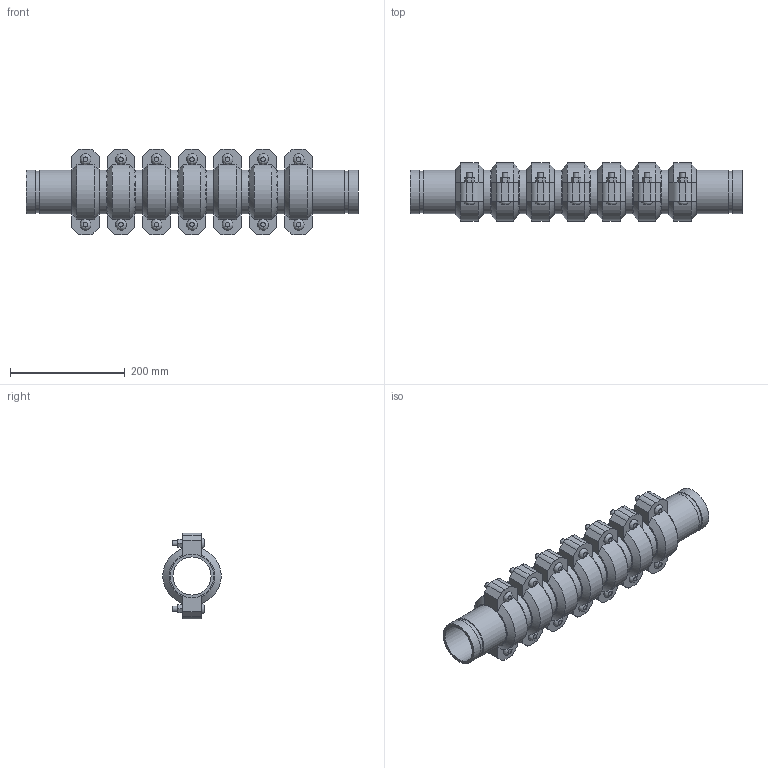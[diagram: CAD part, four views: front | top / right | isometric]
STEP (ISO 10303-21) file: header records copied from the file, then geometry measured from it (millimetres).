
FILE_DESCRIPTION(/* description */ ('VIC EXPANSION JOINT 7 COUPLINGS EXPANDED STYLE 155 (OGS)','CAx-IF Rec.Pracs.---Representation and Presentation of Product Manufacturing Information (PMI)---4.0---2014-10-13'),/* implementation_level */ '2;1');
FILE_NAME(/* name */ 'C:\Users\kkamble\AppData\Roaming\Autodesk\ApplicationPlugins\Victaulic.Temp\A179\Victaulic_IPS_Expansion Joint_Expanded_7 Couplings_Style 155 (OGS)_02.5 (76.1) (65).stp',/* time_stamp */ '2021-06-27T00:06:46+02:00',/* author */ ('kkamble'),/* organization */ ('Victaulic'),/* preprocessor_version */ 'ST-DEVELOPER v17.2',/* originating_system */ 'Autodesk Inventor 2019',/* authorisation */ '');
FILE_SCHEMA (('AP242_MANAGED_MODEL_BASED_3D_ENGINEERING_MIM_LF { 1 0 10303 442 1 1 4 }'));
Length unit declared in the file: inch
Products named in the file (4): 155-02.5 (76.1); Nipple-02.5 (76.1); Nipple-02.5 (76.1)_1; 075-02.5 (76.1)
Assembly tree (15 placements, depth 2):
  155-02.5 (76.1)
    Nipple-02.5 (76.1)  x2
    Nipple-02.5 (76.1)_1  x6
    075-02.5 (76.1)  x7
Bounding box: 579.37 x 101.25 x 149.86 mm (x, y, z)
Volume: 2098267.9 mm3; surface area: 603083 mm2
Topology: 15 solids, 29 shells, 495 faces, 1199 edges, 836 vertices
Faces by surface type: plane 300, cylinder 153, cone 28, bspline 14
Full cylindrical faces by diameter (mm): 9.525 x28, 11.43 x14, 66.65 x8, 69.85 x7, 72.263 x16, 76.2 x38
Entity records: 2883 total; most frequent: CARTESIAN_POINT 531, DIRECTION 475, ORIENTED_EDGE 394, EDGE_CURVE 197, AXIS2_PLACEMENT_3D 190, VERTEX_POINT 140, EDGE_LOOP 105, LINE 95
